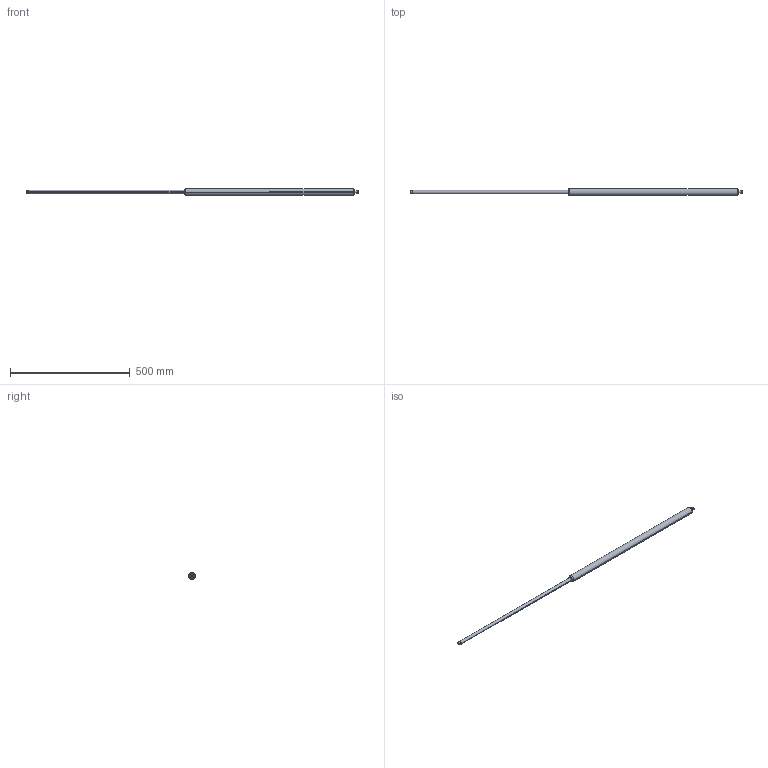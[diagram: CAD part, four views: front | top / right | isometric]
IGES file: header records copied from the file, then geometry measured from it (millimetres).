
Start section: SolidWorks IGES file using analytic representation for surfaces
Global section: file name: Z:\7-3D図面\01.図面\01.L\外形図\Ｇ／Ｓ\20170710(最新)\カタログ用\IGES\FGS-28-650-BB.IGS; native system: SolidWorks 2016; preprocessor: SolidWorks 2016; author: flgijutsu; date: 170710.171859; units: millimetre
Bounding box: 1384 x 28 x 28 mm (x, y, z)
Surface area: 92695.5 mm2 (no closed solid volume)
Topology: 0 solids, 0 shells, 23 faces, 328 edges, 328 vertices
Faces by surface type: revolution 14, bspline 9
